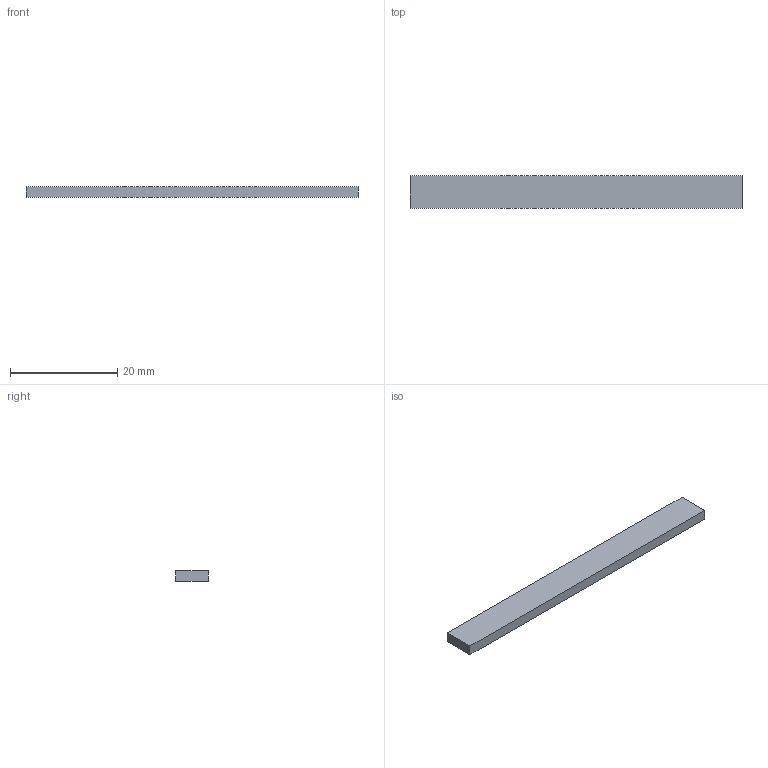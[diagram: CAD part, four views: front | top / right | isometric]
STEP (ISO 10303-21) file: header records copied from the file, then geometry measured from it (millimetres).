
FILE_DESCRIPTION(/* description */ ('Foam'),/* implementation_level */ '2;1');
FILE_NAME(/* name */ 'Z:\Werkstatt Server\Projekte\Atlas\Entwicklung u. Konstruktion\Konstruktion\CAD Daten\ITkPixToolV2.0\Flex Jig\Step Files\ITPTv2.02.00.04.stp',/* time_stamp */ '2021-11-04T12:01:17+01:00',/* author */ ('Tim Kanngießer'),/* organization */ (''),/* preprocessor_version */ 'ST-DEVELOPER v18.1',/* originating_system */ 'Autodesk Inventor 2022',/* authorisation */ '');
FILE_SCHEMA (('AUTOMOTIVE_DESIGN { 1 0 10303 214 3 1 1 }'));
Length unit declared in the file: millimetre
Products named in the file (1): ITPTv2.02.00.04
Bounding box: 62 x 6 x 2 mm (x, y, z)
Volume: 744 mm3; surface area: 1016 mm2
Topology: 1 solids, 1 shells, 6 faces, 12 edges, 8 vertices
Faces by surface type: plane 6
Entity records: 206 total; most frequent: CARTESIAN_POINT 27, DIRECTION 26, ORIENTED_EDGE 24, LINE 12, VECTOR 12, EDGE_CURVE 12, VERTEX_POINT 8, AXIS2_PLACEMENT_3D 7
